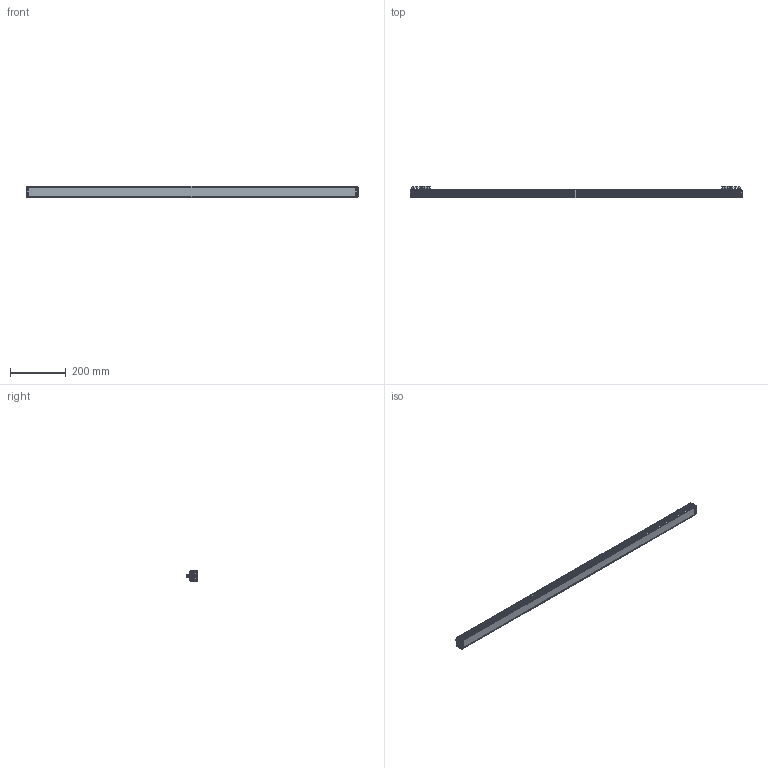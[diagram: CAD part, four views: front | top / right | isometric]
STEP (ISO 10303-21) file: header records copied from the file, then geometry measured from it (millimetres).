
FILE_DESCRIPTION((''),'2;1');
FILE_NAME('MV-LLDS-H-1300-40-W-PL_ASM','2024-04-08T14:42:29',('huguozhe'),(''),'CREO PARAMETRIC BY PTC INC, 2020044','CREO PARAMETRIC BY PTC INC, 2020044','');
FILE_SCHEMA(('AUTOMOTIVE_DESIGN { 1 0 10303 214 1 1 1 1 }'));
Length unit declared in the file: millimetre
Products named in the file (15): DE-15-002453; DE-15-002452_ASM; DE-15-002455; DE-15-002454_ASM; DE-12-002350; TIP-M3X4-4_5X5-SO-ET-07061033; DE-12-002350_ASM; DE-19-008595; SC-KM2X6-BNI-GB819; XIANLAN_HEAD; CABLE_HEAD; CABLE_HEAD_ASM_ASM; 190100852; SC-PM2X6B-JMP; MV-LLDS-H-1300-40-W-PL_ASM
Assembly tree (38 placements, depth 3):
  MV-LLDS-H-1300-40-W-PL_ASM
    DE-15-002452_ASM
      DE-15-002453
    DE-15-002454_ASM
      DE-15-002455
    DE-12-002350_ASM  x2
      DE-12-002350
      TIP-M3X4-4_5X5-SO-ET-07061033
    DE-19-008595
    SC-KM2X6-BNI-GB819  x8
    CABLE_HEAD_ASM_ASM  x2
      XIANLAN_HEAD
      CABLE_HEAD
    190100852  x8
    SC-PM2X6B-JMP  x8
Bounding box: 1188 x 42.65 x 40 mm (x, y, z)
Volume: 1105762.9 mm3; surface area: 550693.6 mm2
Topology: 37 solids, 81 shells, 3275 faces, 8391 edges, 5268 vertices
Faces by surface type: plane 1606, cylinder 717, bspline 480, cone 386, torus 68, sphere 16, extrusion 2
Entity records: 50879 total; most frequent: CARTESIAN_POINT 11981, ORIENTED_EDGE 6586, DIRECTION 6344, EDGE_CURVE 3333, VERTEX_POINT 2136, AXIS2_PLACEMENT_3D 2134, VECTOR 2076, LINE 2075
